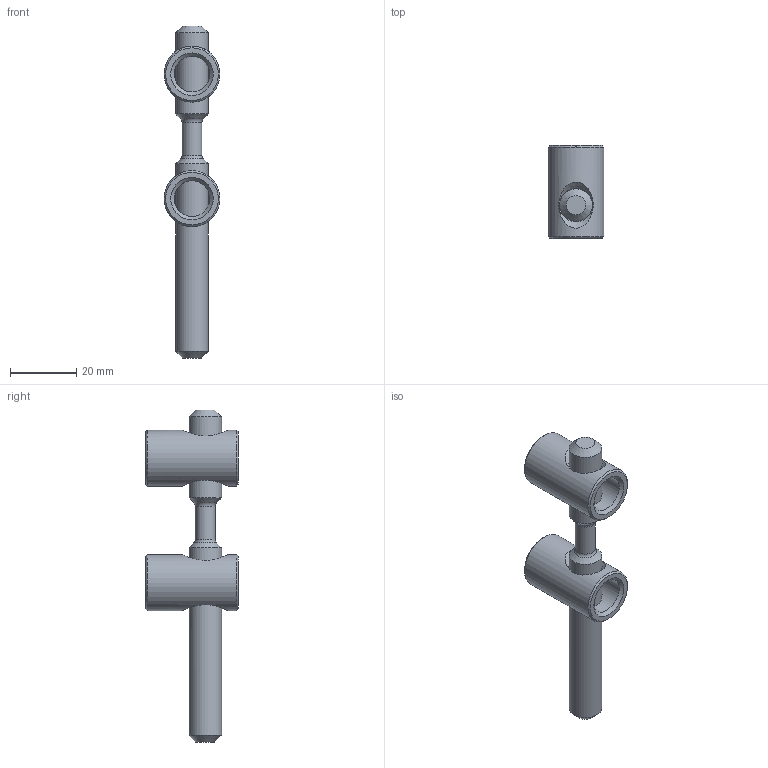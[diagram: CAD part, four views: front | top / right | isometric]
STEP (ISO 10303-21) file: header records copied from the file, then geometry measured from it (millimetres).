
FILE_DESCRIPTION (( 'STEP AP214' ), '1' );
FILE_NAME ('099b1017s01.STEP', '2015-05-18T12:25:56', ( 'Admin' ), ( 'Hewlett-Packard Company' ), 'SwSTEP 2.0', 'SolidWorks 2014', '' );
FILE_SCHEMA (( 'AUTOMOTIVE_DESIGN' ));
Length unit declared in the file: millimetre
Products named in the file (4): 099b1017s01R02_Standard; 099b1017s01; 4DIN914M1214MS01_Standard; 099b10171000R01_Standard
Assembly tree (5 placements, depth 2):
  099b1017s01
    099b1017s01R02_Standard
    099b10171000R01_Standard  x2
    4DIN914M1214MS01_Standard  x2
Bounding box: 16.85 x 28 x 100 mm (x, y, z)
Volume: 14316.6 mm3; surface area: 9908.8 mm2
Topology: 5 solids, 5 shells, 99 faces, 262 edges, 167 vertices
Faces by surface type: plane 50, cone 26, cylinder 15, bspline 6, torus 2
Full cylindrical faces by diameter (mm): 6 x1, 9.8 x2, 10.05 x4, 10.79 x2, 10.8 x2, 16.85 x2
Entity records: 4709 total; most frequent: CARTESIAN_POINT 3421, DIRECTION 228, ORIENTED_EDGE 208, EDGE_CURVE 104, AXIS2_PLACEMENT_3D 95, EDGE_LOOP 83, VERTEX_POINT 75, FACE_OUTER_BOUND 66
